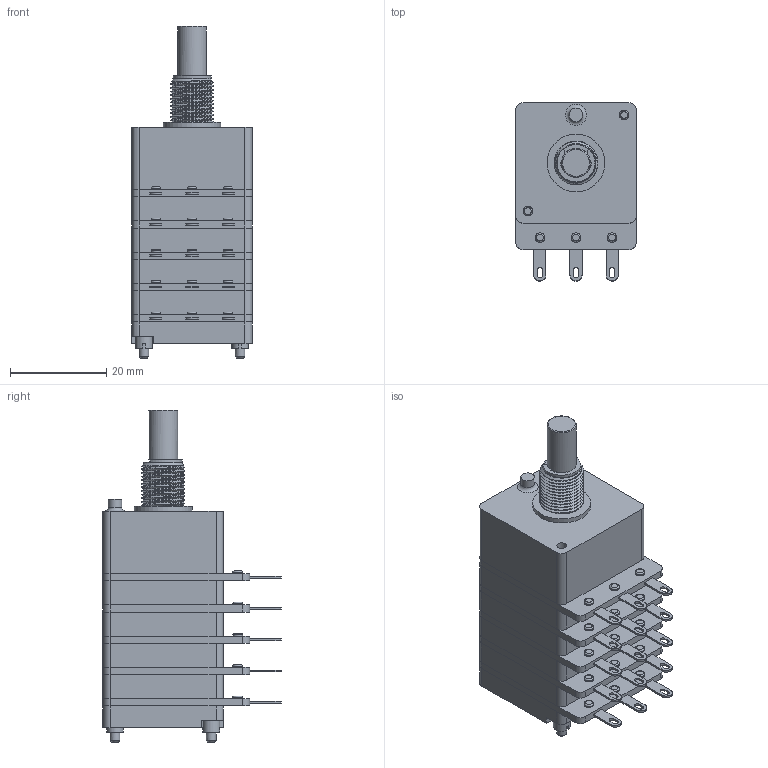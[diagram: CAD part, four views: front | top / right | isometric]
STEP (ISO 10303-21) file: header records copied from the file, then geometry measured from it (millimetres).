
FILE_DESCRIPTION(('FreeCAD Model'),'2;1');
FILE_NAME('Open CASCADE Shape Model','2024-02-27T12:51:13',(''),(''), 'Open CASCADE STEP processor 7.6','FreeCAD','Unknown');
FILE_SCHEMA(('AUTOMOTIVE_DESIGN { 1 0 10303 214 1 1 1 1 }'));
Length unit declared in the file: millimetre
Products named in the file (1): 5cp25xx-r20
Bounding box: 25 x 37 x 69 mm (x, y, z)
Volume: 29822.3 mm3; surface area: 9749.3 mm2
Topology: 1 solids, 26 shells, 529 faces, 1157 edges, 724 vertices
Faces by surface type: plane 269, cylinder 199, bspline 38, torus 17, cone 6
Full cylindrical faces by diameter (mm): 1.9 x2, 2 x39, 2.2 x18, 2.8 x1, 3.5 x2, 4.5 x5, 5.4 x1, 6 x1, 6.05 x1, 8 x1, 9.09 x11, 12 x1
Entity records: 39537 total; most frequent: CARTESIAN_POINT 15126, DIRECTION 4108, ORIENTED_EDGE 2312, PCURVE 2312, DEFINITIONAL_REPRESENTATION 2312, LINE 2058, VECTOR 2058, EDGE_CURVE 1156
